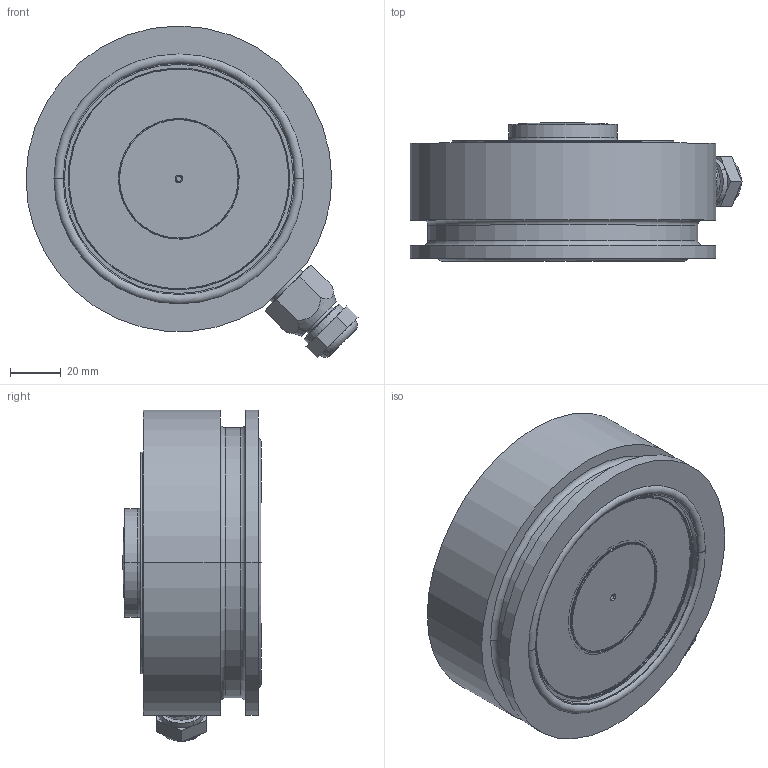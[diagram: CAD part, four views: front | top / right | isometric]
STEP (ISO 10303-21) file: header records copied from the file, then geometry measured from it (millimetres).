
FILE_DESCRIPTION (( 'STEP AP203' ), '1' );
FILE_NAME ('Load Sensor_HI HP50-SS-44KLB-66KLB.STEP', '2013-09-27T16:42:18', ( 'Jim' ), ( 'Hewlett-Packard Company' ), 'SwSTEP 2.0', 'SolidWorks 2013', '' );
FILE_SCHEMA (( 'CONFIG_CONTROL_DESIGN' ));
Length unit declared in the file: millimetre
Products named in the file (7): 44KLB-66KLB - Grommet; 44KLB-66KLB - Weld Base; 44KLB-66KLB - Cable Nut; Load Sensor_HI HP50-SS-44KLB-66KLB; 44KLB-66KLB - Element; 44KLB-66KLB - Diaphram; 44KLB-66KLB - Cable adaptor
Assembly tree (7 placements, depth 2):
  Load Sensor_HI HP50-SS-44KLB-66KLB
    44KLB-66KLB - Element
    44KLB-66KLB - Diaphram  x2
    44KLB-66KLB - Cable adaptor
    44KLB-66KLB - Grommet
    44KLB-66KLB - Weld Base
    44KLB-66KLB - Cable Nut
Bounding box: 130.3 x 54.37 x 130.3 mm (x, y, z)
Volume: 448224.6 mm3; surface area: 76292.3 mm2
Topology: 7 solids, 7 shells, 182 faces, 382 edges, 239 vertices
Faces by surface type: cylinder 78, plane 58, torus 30, cone 14, sphere 2
Entity records: 5321 total; most frequent: CARTESIAN_POINT 901, DIRECTION 868, ORIENTED_EDGE 684, AXIS2_PLACEMENT_3D 374, EDGE_CURVE 342, VERTEX_POINT 215, CIRCLE 202, EDGE_LOOP 195
